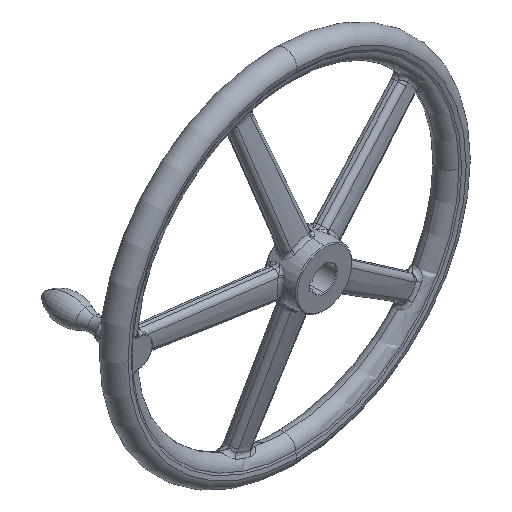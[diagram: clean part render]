
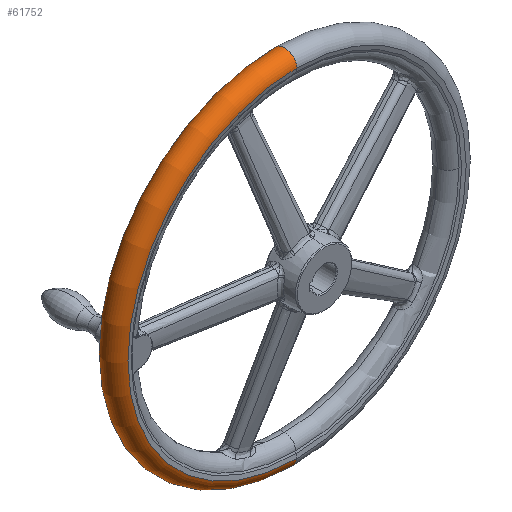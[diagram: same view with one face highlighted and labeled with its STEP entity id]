
A CAD part, isometric view. The second image highlights one B-rep face of the part: STEP entity #61752.
In plain terms, the highlighted toroidal (fillet/blend) face has major radius 232.939 mm and minor radius 17.061 mm.
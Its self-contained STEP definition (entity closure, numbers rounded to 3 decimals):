
#6948 = EDGE_CURVE ( 'NONE', #28570, #7509, #11260, .T. ) ;
#6998 = EDGE_CURVE ( 'NONE', #7274, #7509, #11539, .T. ) ;
#7274 = VERTEX_POINT ( 'NONE', #12309 ) ;
#7471 = EDGE_CURVE ( 'NONE', #62011, #7274, #62648, .T. ) ;
#7509 = VERTEX_POINT ( 'NONE', #63170 ) ;
#11260 = CIRCLE ( 'NONE', #11424, 17.061 ) ;
#11424 = AXIS2_PLACEMENT_3D ( 'NONE', #11441, #11440, #11439 ) ;
#11439 = DIRECTION ( 'NONE',  ( 0., 0., 1. ) ) ;
#11440 = DIRECTION ( 'NONE',  ( -1., 0., 0. ) ) ;
#11441 = CARTESIAN_POINT ( 'NONE',  ( 0., 55., -232.939 ) ) ;
#11535 = DIRECTION ( 'NONE',  ( 0., 0., -1. ) ) ;
#11536 = DIRECTION ( 'NONE',  ( 0., -1., 0. ) ) ;
#11537 = CARTESIAN_POINT ( 'NONE',  ( 0., 38., 0. ) ) ;
#11538 = AXIS2_PLACEMENT_3D ( 'NONE', #11537, #11536, #11535 ) ;
#11539 = CIRCLE ( 'NONE', #11538, 234.378 ) ;
#12309 = CARTESIAN_POINT ( 'NONE',  ( 0., 38., 234.378 ) ) ;
#21137 = DIRECTION ( 'NONE',  ( 0., 0., -1. ) ) ;
#21139 = DIRECTION ( 'NONE',  ( 0., -1., 0. ) ) ;
#21140 = AXIS2_PLACEMENT_3D ( 'NONE', #21145, #21139, #21137 ) ;
#21141 = TOROIDAL_SURFACE ( 'NONE', #21140, 232.939, 17.061 ) ;
#21144 = FACE_OUTER_BOUND ( 'NONE', #57131, .T. ) ;
#21145 = CARTESIAN_POINT ( 'NONE',  ( 0., 55., 0. ) ) ;
#23949 = CARTESIAN_POINT ( 'NONE',  ( 0., 72., 234.378 ) ) ;
#28570 = VERTEX_POINT ( 'NONE', #35573 ) ;
#35573 = CARTESIAN_POINT ( 'NONE',  ( 0., 72., -234.378 ) ) ;
#44860 = DIRECTION ( 'NONE',  ( 0., 0., -1. ) ) ;
#44862 = DIRECTION ( 'NONE',  ( 0., -1., 0. ) ) ;
#44864 = AXIS2_PLACEMENT_3D ( 'NONE', #44875, #44862, #44860 ) ;
#44866 = CIRCLE ( 'NONE', #44864, 234.378 ) ;
#44875 = CARTESIAN_POINT ( 'NONE',  ( 0., 72., 0. ) ) ;
#57131 = EDGE_LOOP ( 'NONE', ( #61755, #61789, #61772, #61764 ) ) ;
#61752 = ADVANCED_FACE ( 'NONE', ( #21144 ), #21141, .T. ) ;
#61755 = ORIENTED_EDGE ( 'NONE', *, *, #7471, .F. ) ;
#61764 = ORIENTED_EDGE ( 'NONE', *, *, #6998, .F. ) ;
#61772 = ORIENTED_EDGE ( 'NONE', *, *, #6948, .T. ) ;
#61789 = ORIENTED_EDGE ( 'NONE', *, *, #62571, .T. ) ;
#62011 = VERTEX_POINT ( 'NONE', #23949 ) ;
#62571 = EDGE_CURVE ( 'NONE', #62011, #28570, #44866, .T. ) ;
#62636 = CARTESIAN_POINT ( 'NONE',  ( 0., 55., 232.939 ) ) ;
#62648 = CIRCLE ( 'NONE', #62649, 17.061 ) ;
#62649 = AXIS2_PLACEMENT_3D ( 'NONE', #62636, #62654, #62653 ) ;
#62653 = DIRECTION ( 'NONE',  ( 0., 0., -1. ) ) ;
#62654 = DIRECTION ( 'NONE',  ( 1., 0., 0. ) ) ;
#63170 = CARTESIAN_POINT ( 'NONE',  ( 0., 38., -234.378 ) ) ;
